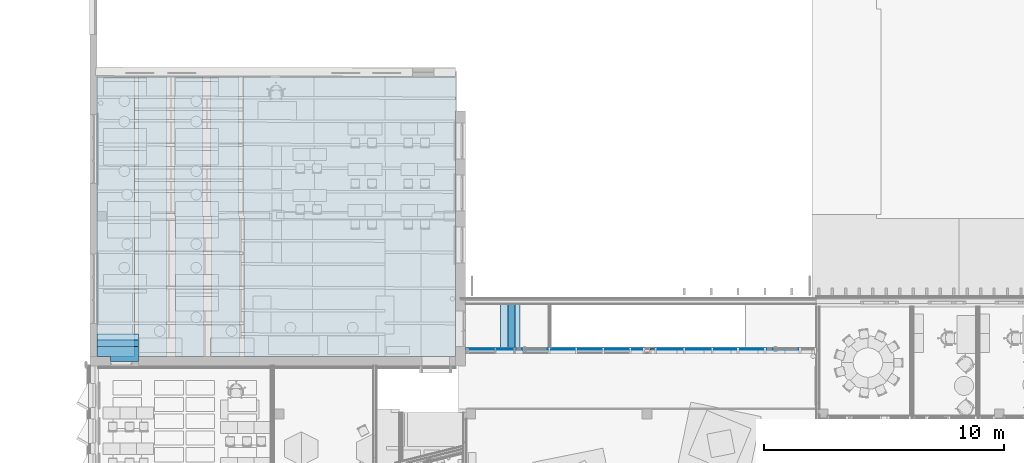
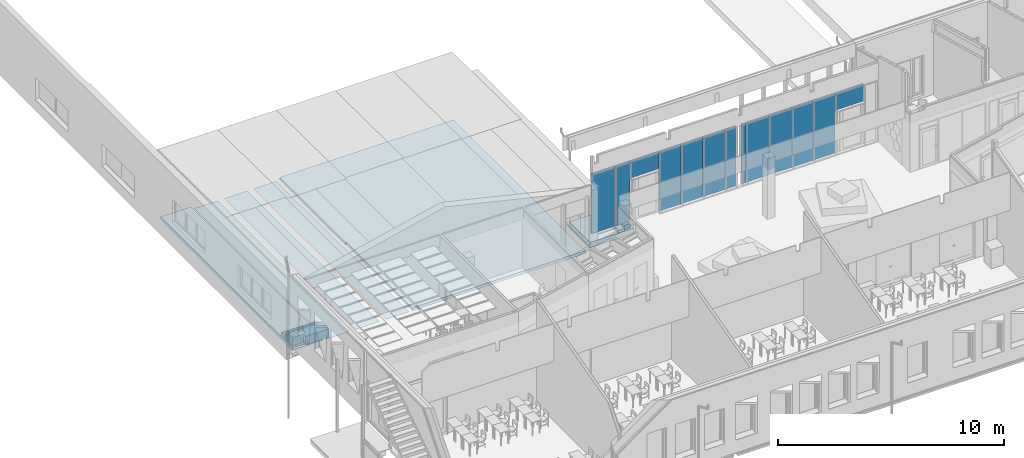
# One storey, part 38 of 153: 13 plates, 7 slabs, 2 elements without a shape of their own.
"""IFC2X3 building model written with IfcOpenShell, lengths in millimetres."""

from ifc_helpers import new_model, entity, si_unit, converted_unit, derived_unit, money_unit, direction, frame, origin_with_axes, place, context, subcontext, project, spatial, faceted_brep, material, type_object, element, aggregate, save


model = new_model("IFC2X3")

# Units and contexts
model_context = context("Model", 3, precision=0.01, world=origin_with_axes(), true_north=direction((0.0, 1.0)))
body_context = subcontext(model_context, "Body", "Model", "MODEL_VIEW")
ifc_project = project(units=[si_unit("LENGTHUNIT", "METRE", prefix="MILLI"), si_unit("AREAUNIT", "SQUARE_METRE"), si_unit("VOLUMEUNIT", "CUBIC_METRE"), converted_unit("PLANEANGLEUNIT", "DEGREE", entity("IfcPlaneAngleMeasure", 0.0174532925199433), si_unit("PLANEANGLEUNIT", "RADIAN"), dimensions=[0, 0, 0, 0, 0, 0, 0]), money_unit("EUR"), converted_unit("TIMEUNIT", "Year", entity("IfcTimeMeasure", 31557600.0), si_unit("TIMEUNIT", "SECOND"), dimensions=[0, 0, 1, 0, 0, 0, 0]), si_unit("MASSUNIT", "GRAM", prefix="KILO"), si_unit("THERMODYNAMICTEMPERATUREUNIT", "DEGREE_CELSIUS"), si_unit("LUMINOUSINTENSITYUNIT", "LUMEN"), si_unit("ENERGYUNIT", "JOULE", prefix="MEGA"), derived_unit("THERMALCONDUCTANCEUNIT", [(si_unit("POWERUNIT", "WATT"), 1), (si_unit("LENGTHUNIT", "METRE"), -1), (si_unit("THERMODYNAMICTEMPERATUREUNIT", "KELVIN"), -1)]), derived_unit("SPECIFICHEATCAPACITYUNIT", [(si_unit("ENERGYUNIT", "JOULE"), 1), (si_unit("MASSUNIT", "GRAM", prefix="KILO"), -1), (si_unit("THERMODYNAMICTEMPERATUREUNIT", "KELVIN"), -1)]), derived_unit("MASSDENSITYUNIT", [(si_unit("MASSUNIT", "GRAM", prefix="KILO"), 1), (si_unit("VOLUMEUNIT", "CUBIC_METRE"), -1)])], contexts=[model_context])

# Site, building, storey
site_placement = place(None, frame((0.0, 0.0, 8650.0), z_axis=(0.0, 0.0, 1.0), x_axis=(1.0, 0.0, 0.0)))
site = spatial("IfcSite", under=ifc_project, at=site_placement, Name="43301:001:0844", CompositionType="ELEMENT")
building_placement = place(site_placement, origin_with_axes())
building = spatial("IfcBuilding", under=site, at=building_placement, Name="Kuressaare Ametikooli tuulikute mehaanikute õppekorpus", CompositionType="ELEMENT")
storey_placement = place(building_placement, frame((0.0, 0.0, 4100.0), z_axis=(0.0, 0.0, 1.0), x_axis=(1.0, 0.0, 0.0)))
storey = spatial("IfcBuildingStorey", under=building, at=storey_placement, Name="2.korrus", CompositionType="ELEMENT", Elevation=4100.0)

# Slabs
ifc_material_1 = material(Name="GENEERILINE - KONSTRUKTRIOON")
slab_type_1 = type_object("IfcSlabType", Name="GENEERILINE - KONSTRUKTRIOON 150", PredefinedType="NOTDEFINED")
slab_1_placement = place(storey_placement, frame((105407.1026760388, 28359.57374875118, -299.9999999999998), z_axis=(0.0, 0.0, 1.0), x_axis=(1.0, 0.0, 0.0)))
element("IfcSlab", 1, at=slab_1_placement, inside=storey, type_object=slab_type_1, material=ifc_material_1, PredefinedType="NOTDEFINED", context=body_context, shape_type="Brep", body=[
    faceted_brep([(0.0, 0.0, 0.0), (0.0, 0.0, -149.9999999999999), (-300.5981458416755, 0.0, -149.9999999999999), (-300.5981458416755, 0.0, 0.0), (0.0, -1850.000000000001, 0.0), (0.0, -1850.000000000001, -149.9999999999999), (-300.5981458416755, -1850.000000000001, -149.9999999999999), (-300.5981458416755, -1850.000000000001, 0.0)], [[[0, 1, 2, 3]], [[4, 5, 1, 0]], [[2, 1, 5, 6]], [[3, 2, 6, 7]], [[4, 0, 3, 7]], [[7, 6, 5, 4]]]),
])
slab_2_placement = place(storey_placement, frame((88258.75644683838, 26853.06892395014, -299.9999999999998), z_axis=(0.0, 0.0, 1.0), x_axis=(1.0, 0.0, 0.0)))
element("IfcSlab", 2, at=slab_2_placement, inside=storey, type_object=slab_type_1, material=ifc_material_1, PredefinedType="NOTDEFINED", context=body_context, shape_type="Brep", body=[
    faceted_brep([(0.0, 0.0, 0.0), (0.0, 0.0, -150.0000000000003), (1733.070487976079, 0.0, -150.0000000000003), (1733.070487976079, 0.0, 0.0), (0.0, 269.9999999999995, 0.0), (0.0, 269.9999999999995, -150.0000000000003), (1733.070487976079, 269.9999999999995, -150.0000000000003), (1733.070487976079, 269.9999999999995, 0.0)], [[[0, 1, 2, 3]], [[4, 5, 1, 0]], [[2, 1, 5, 6]], [[3, 2, 6, 7]], [[4, 0, 3, 7]], [[7, 6, 5, 4]]]),
])
slab_3_placement = place(storey_placement, frame((88258.75644683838, 37845.7716648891, -539.9999999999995), z_axis=(0.0, 0.0, 1.0), x_axis=(1.0, 0.0, 0.0)))
element("IfcSlab", 3, at=slab_3_placement, inside=storey, type_object=slab_type_1, material=ifc_material_1, PredefinedType="NOTDEFINED", context=body_context, shape_type="Brep", body=[
    faceted_brep([(0.0, 0.0, 0.0), (0.0, -11662.70274093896, 0.0), (1558.995971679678, -11662.70274093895, 0.0), (1558.995971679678, 0.0, 0.0), (0.0, -11662.70274093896, -149.9999999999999), (0.0, 0.0, -149.9999999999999), (1558.995971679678, -11662.70274093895, -149.9999999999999), (1558.995971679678, 0.0, -149.9999999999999)], [[[0, 1, 2, 3]], [[4, 1, 0, 5]], [[1, 4, 6, 2]], [[6, 7, 3, 2]], [[5, 0, 3, 7]], [[5, 7, 6, 4]]]),
    faceted_brep([(5966.802896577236, -5811.435005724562, -149.9999999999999), (5923.606271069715, -5811.435005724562, -149.9999999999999), (5922.786153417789, -5811.435005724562, -149.8234995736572), (5965.978554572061, -5811.435005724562, -149.8234995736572), (4772.792239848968, -11662.70274093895, -149.9999999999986), (4772.792239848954, -5811.435005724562, -149.9999999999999), (4745.694888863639, -5811.435005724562, -149.9999999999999), (4745.694888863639, 0.0, -149.999999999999), (5923.606271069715, 0.0, -150.0000000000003), (5966.802896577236, -11662.70274093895, -150.0000000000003), (5922.786153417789, 0.0, -149.8234995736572), (4747.7992075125, -5811.435005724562, -149.8234995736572), (4773.843710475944, -5811.435005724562, -149.8234995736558), (4775.349164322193, -5811.435005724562, -149.8234995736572), (4775.349164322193, -11662.70274093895, -149.8234995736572), (5965.978554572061, -11662.70274093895, -149.8234995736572), (4747.7992075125, 0.0, -149.8234995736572), (4773.903686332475, -11662.70274093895, -149.8134319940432), (4773.903686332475, -5811.435005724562, -149.8134319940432), (4746.740962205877, -5811.435005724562, -149.8134319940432), (4746.740962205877, 0.0, -149.8134319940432)], [[[0, 1, 2, 3]], [[4, 5, 6, 7, 8, 1, 0, 9]], [[2, 1, 8, 10]], [[11, 12, 13, 14, 15, 3, 2, 10, 16]], [[9, 0, 3, 15]], [[4, 17, 18, 12, 5]], [[6, 5, 12, 11, 19]], [[20, 7, 6, 19]], [[20, 16, 10, 8, 7]], [[15, 14, 17, 4, 9]], [[13, 12, 18]], [[17, 14, 13, 18]], [[16, 20, 19, 11]]]),
    faceted_brep([(14968.75576019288, -11662.70274093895, -149.9999999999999), (6133.995971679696, -11662.70274093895, -149.9999999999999), (6133.995971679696, -5811.435005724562, -149.9999999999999), (6088.995971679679, -5811.435005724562, -149.9999999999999), (6088.995971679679, 0.0, -149.9999999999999), (14968.75576019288, 0.0, -149.9999999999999), (7057.827577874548, -5590.926049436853, -149.9999999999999), (7057.827577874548, -6090.926049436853, -149.9999999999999), (8087.827577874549, -6090.926049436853, -149.9999999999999), (8087.827577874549, -5590.926049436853, -149.9999999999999), (14968.75576019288, -11662.70274093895, 0.0), (6133.995971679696, -11662.70274093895, 0.0), (6133.995971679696, -5811.435005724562, 0.0), (6088.995971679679, -5811.435005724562, 0.0), (6088.995971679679, 0.0, 0.0), (14968.75576019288, 0.0, 0.0), (7057.827577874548, -6090.926049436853, -60.00000000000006), (7057.827577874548, -5590.926049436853, -60.00000000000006), (8087.827577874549, -6090.926049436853, -60.00000000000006), (8087.827577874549, -5590.926049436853, -60.00000000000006)], [[[0, 1, 2, 3, 4, 5], [6, 7, 8, 9]], [[0, 10, 11, 1]], [[2, 1, 11, 12]], [[3, 2, 12, 13]], [[4, 3, 13, 14]], [[15, 5, 4, 14]], [[5, 15, 10, 0]], [[16, 7, 6, 17]], [[18, 8, 7, 16]], [[19, 9, 8, 18]], [[17, 6, 9, 19]], [[14, 13, 12, 11, 10, 15]], [[19, 18, 16, 17]]]),
    faceted_brep([(4441.802896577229, -5811.435005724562, -149.9999999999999), (4419.067604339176, -5811.435005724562, -149.9999999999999), (4418.249115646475, -5811.435005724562, -149.8234995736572), (4440.978554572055, -5811.435005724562, -149.8234995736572), (3247.792239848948, -11662.70274093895, -149.9999999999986), (3247.792239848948, -5811.435005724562, -149.9999999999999), (3246.087099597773, -5811.435005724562, -149.9999999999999), (3246.087099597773, 0.0, -149.9999999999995), (4419.067604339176, 0.0, -149.9999999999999), (4441.802896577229, -11662.70274093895, -150.0000000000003), (4418.249115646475, 0.0, -149.8234995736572), (3247.175886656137, -5811.435005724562, -149.8234995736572), (3248.843710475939, -5811.435005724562, -149.8234995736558), (3250.349164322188, -5811.435005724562, -149.8234995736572), (3250.349164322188, -11662.70274093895, -149.8234995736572), (4440.978554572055, -11662.70274093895, -149.8234995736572), (3247.175886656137, 0.0, -149.8234995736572), (3248.903686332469, -11662.70274093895, -149.8134319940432), (3248.903686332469, -5811.435005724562, -149.8134319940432)], [[[0, 1, 2, 3]], [[4, 5, 6, 7, 8, 1, 0, 9]], [[2, 1, 8, 10]], [[11, 12, 13, 14, 15, 3, 2, 10, 16]], [[9, 0, 3, 15]], [[4, 17, 18, 12, 5]], [[6, 5, 12, 11]], [[16, 7, 6, 11]], [[7, 16, 10, 8]], [[15, 14, 17, 4, 9]], [[13, 12, 18]], [[17, 14, 13, 18]]]),
    faceted_brep([(2916.802896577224, -11662.70274093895, -150.0000000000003), (2916.802896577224, 0.0, -150.0000000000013), (2915.97855457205, 0.0, -149.8234995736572), (2915.97855457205, -11662.70274093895, -149.8234995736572), (1722.792239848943, -11662.70274093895, -149.9999999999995), (1722.792239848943, 0.0, -149.999999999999), (1723.903686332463, 0.0, -149.8134319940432), (1725.349164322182, 0.0, -149.8234995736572), (1725.349164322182, -11662.70274093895, -149.8234995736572), (1723.903686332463, -11662.70274093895, -149.8134319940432)], [[[0, 1, 2, 3]], [[4, 5, 1, 0]], [[6, 7, 2, 1, 5]], [[2, 7, 8, 3]], [[3, 8, 9, 4, 0]], [[6, 5, 4, 9]], [[7, 6, 9, 8]]]),
])

# Curtain wall, plates
curtain_wall_type = type_object("IfcCurtainWallType", Name="Curtain Wall Type", PredefinedType="NOTDEFINED")
curtain_wall_1_placement = place(storey_placement, frame((107592.1026822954, 26479.57374875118, 34.9999663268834), z_axis=(0.0, 0.0, 1.0), x_axis=(1.0, 0.0, 0.0)))
curtain_wall_1 = element("IfcCurtainWall", 4, at=curtain_wall_1_placement, inside=storey, type_object=curtain_wall_type, Name="SKF-2.1,EI60")
ifc_material_2 = material(Name="Klaas")
plate_type_1 = type_object("IfcPlateType", Name="Main Panel 1115 x 950 x 40", PredefinedType="NOTDEFINED")
plate_1_placement = place(curtain_wall_1_placement, frame((0.0, 0.0, 1761.999995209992), z_axis=(0.0, 0.0, 1.0), x_axis=(-1.0, 0.0, 0.0)))
plate_1 = element("IfcPlate", 5, at=plate_1_placement, type_object=plate_type_1, material=ifc_material_2, context=body_context, shape_type="Brep", body=[
    faceted_brep([(-669.9999926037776, 20.00000000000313, 1487.999969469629), (-669.9999926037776, -19.99999999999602, 1487.999969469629), (444.9999861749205, -19.99999999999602, 1487.999969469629), (444.9999861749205, 20.00000000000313, 1487.999969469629), (-669.9999926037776, 20.00000000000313, -1756.999981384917), (-669.9999926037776, -19.99999999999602, -1756.999981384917), (444.9999861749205, -19.99999999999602, -1756.999981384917), (444.9999861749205, -19.99999999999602, 538.000010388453), (444.9999861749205, 20.00000000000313, 538.000010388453), (444.9999861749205, 20.00000000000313, -1756.999981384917)], [[[0, 1, 2, 3]], [[4, 5, 1, 0]], [[1, 5, 6, 7, 2]], [[3, 2, 7, 8]], [[0, 3, 8, 9, 4]], [[9, 6, 5, 4]], [[8, 7, 6, 9]]]),
])
plate_type_2 = type_object("IfcPlateType", Name="Main Panel 1 x 3250 x 40", PredefinedType="NOTDEFINED")
plate_2_placement = place(curtain_wall_1_placement, frame((-2308.778167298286, 0.0, 1797.500013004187), z_axis=(0.0, 0.0, 1.0), x_axis=(-1.0, 0.0, 0.0)))
plate_2 = element("IfcPlate", 6, at=plate_2_placement, type_object=plate_type_2, material=ifc_material_2, Name="AKU10+4,EI30", context=body_context, shape_type="Brep", body=[
    faceted_brep([(-384.5620688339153, 20.00000000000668, 1457.500021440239), (-384.5620688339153, -19.99999999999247, 1457.500021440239), (391.2217889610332, -19.99999999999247, 1457.500021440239), (391.2217889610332, 20.00000000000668, 1457.500021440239), (-384.5620688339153, 20.00000000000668, 497.5000354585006), (-384.5620688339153, -19.99999999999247, 497.5000354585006), (-393.7781580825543, -19.99999999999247, 497.4999868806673), (-393.7781580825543, -19.99999999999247, -1792.499993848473), (391.2218375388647, -19.99999999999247, -1792.499993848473), (392.1183900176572, -19.99999999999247, -1792.499993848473), (392.1183900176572, -19.99999999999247, 1457.500021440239), (392.1183900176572, 20.00000000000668, 1457.500021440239), (392.1183900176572, 20.00000000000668, -1792.499993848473), (391.2218375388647, 20.00000000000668, -1792.499993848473), (-393.7781580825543, 20.00000000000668, -1792.499993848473), (-393.7781580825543, 20.00000000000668, 497.4999868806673)], [[[0, 1, 2, 3]], [[4, 5, 1, 0]], [[1, 5, 6, 7, 8, 9, 10, 2]], [[3, 2, 10, 11]], [[0, 3, 11, 12, 13, 14, 15, 4]], [[15, 6, 5, 4]], [[14, 7, 6, 15]], [[13, 8, 7, 14]], [[12, 9, 8, 13]], [[11, 10, 9, 12]]]),
])
plate_type_3 = type_object("IfcPlateType", Name="Main Panel 70 x 3250 x 40", PredefinedType="NOTDEFINED")
plate_3_placement = place(curtain_wall_1_placement, frame((-3476.965550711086, 0.0, 1630.000002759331), z_axis=(0.0, 0.0, 1.0), x_axis=(-1.0, 0.0, 0.0)))
plate_3 = element("IfcPlate", 7, at=plate_3_placement, type_object=plate_type_3, material=ifc_material_2, Name="AKU10+4,EI30", context=body_context, shape_type="Brep", body=[
    faceted_brep([(-766.0689610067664, 20.00000000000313, 1624.999965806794), (-766.0689610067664, -19.99999999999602, 1624.999965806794), (348.034445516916, -19.99999999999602, 1625.000062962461), (348.034445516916, 20.00000000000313, 1625.000062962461), (-766.0689610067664, 20.00000000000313, -1624.99998355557), (-766.0689610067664, -19.99999999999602, -1624.999983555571), (348.034445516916, -19.99999999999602, -1624.999983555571), (418.0344714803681, -19.99999999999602, -1624.999983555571), (418.0345686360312, -19.99999999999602, 1624.999965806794), (418.0345686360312, 20.00000000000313, 1624.999965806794), (418.0344714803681, 20.00000000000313, -1624.99998355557), (348.034445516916, 20.00000000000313, -1624.99998355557)], [[[0, 1, 2, 3]], [[4, 5, 1, 0]], [[1, 5, 6, 7, 8, 2]], [[3, 2, 8, 9]], [[0, 3, 9, 10, 11, 4]], [[11, 6, 5, 4]], [[10, 7, 6, 11]], [[9, 8, 7, 10]]]),
])
plate_type_4 = type_object("IfcPlateType", Name="Main Panel 339 x 950 x 40", PredefinedType="NOTDEFINED")
plate_4_placement = place(curtain_wall_1_placement, frame((-1191.492466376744, 0.0, 2726.111134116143), z_axis=(0.0, 0.0, 1.0), x_axis=(-1.0, 0.0, 0.0)))
plate_4 = element("IfcPlate", 8, at=plate_4_placement, type_object=plate_type_4, material=ifc_material_2, Name="AKU10+4,EI30", context=body_context, shape_type="Brep", body=[
    faceted_brep([(-736.4924667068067, 20.00000000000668, 528.8888519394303), (-736.4924667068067, -19.99999999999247, 528.8888519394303), (383.5075250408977, -19.99999999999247, 528.8889176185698), (383.5075250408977, 20.00000000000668, 528.8889176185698), (-736.4924667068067, 20.00000000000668, -426.1111069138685), (-736.4924667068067, -19.99999999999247, -426.1111069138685), (-716.4924461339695, -19.99999999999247, -426.1111069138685), (-716.4924461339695, -19.99999999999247, -421.1111072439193), (383.5075250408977, -19.99999999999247, -421.1111291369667), (718.5075467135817, -19.99999999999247, -421.1111291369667), (722.7236220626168, -19.99999999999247, -421.1111072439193), (722.7236220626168, -19.99999999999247, 528.8889176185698), (722.7236220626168, 20.00000000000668, 528.8889176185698), (722.7236220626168, 20.00000000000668, -421.1111072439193), (718.5075467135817, 20.00000000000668, -421.1111291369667), (383.5075250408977, 20.00000000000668, -421.1111291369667), (-716.4924461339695, 20.00000000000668, -421.1111072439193), (-716.4924461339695, 20.00000000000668, -426.1111069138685)], [[[0, 1, 2, 3]], [[4, 5, 1, 0]], [[1, 5, 6, 7, 8, 9, 10, 11, 2]], [[3, 2, 11, 12]], [[0, 3, 12, 13, 14, 15, 16, 17, 4]], [[17, 6, 5, 4]], [[16, 7, 6, 17]], [[15, 8, 7, 16]], [[14, 9, 8, 15]], [[13, 10, 9, 14]], [[12, 11, 10, 13]]]),
])
plate_type_5 = type_object("IfcPlateType", Name="Main Panel 1115 x 3250 x 40", PredefinedType="NOTDEFINED")
plate_5_placement = place(curtain_wall_1_placement, frame((1125.0, 0.0, 1955.000017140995), z_axis=(0.0, 0.0, 1.0), x_axis=(-1.0, 0.0, 0.0)))
plate_5 = element("IfcPlate", 9, at=plate_5_placement, type_object=plate_type_5, material=ifc_material_2, context=body_context, shape_type="Brep", body=[
    faceted_brep([(-670.000016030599, 20.00000000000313, 1300.000017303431), (-670.000016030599, -19.99999999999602, 1300.000017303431), (444.9999808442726, -19.99999999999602, 1299.999968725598), (444.9999808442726, 20.00000000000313, 1299.999968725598), (-670.000016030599, 20.00000000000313, -1949.999997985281), (-670.000016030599, -19.99999999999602, -1949.999997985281), (444.9999808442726, -19.99999999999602, -1949.999997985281), (444.9999808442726, 20.00000000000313, -1949.999997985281)], [[[0, 1, 2, 3]], [[4, 5, 1, 0]], [[1, 5, 6, 2]], [[3, 2, 6, 7]], [[0, 3, 7, 4]], [[7, 6, 5, 4]]]),
])
plate_6_placement = place(curtain_wall_1_placement, frame((2362.500000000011, 0.0, 1630.000026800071), z_axis=(0.0, 0.0, 1.0), x_axis=(-1.0, 0.0, 0.0)))
plate_6 = element("IfcPlate", 10, at=plate_6_placement, type_object=plate_type_5, material=ifc_material_2, context=body_context, shape_type="Brep", body=[
    faceted_brep([(-557.5000160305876, 19.99999999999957, 1625.000007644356), (-557.5000160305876, -19.99999999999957, 1625.000007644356), (557.499980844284, -19.99999999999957, 1625.000007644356), (557.499980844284, 19.99999999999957, 1625.000007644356), (-557.5000160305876, 19.99999999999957, -1625.000007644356), (-557.5000160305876, -19.99999999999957, -1625.000007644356), (557.499980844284, -19.99999999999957, -1625.000007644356), (557.499980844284, 19.99999999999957, -1625.000007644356)], [[[0, 1, 2, 3]], [[4, 5, 1, 0]], [[1, 5, 6, 2]], [[3, 2, 6, 7]], [[0, 3, 7, 4]], [[7, 6, 5, 4]]]),
])
plate_type_6 = type_object("IfcPlateType", Name="Main Panel 556 x 3250 x 40", PredefinedType="NOTDEFINED")
plate_7_placement = place(curtain_wall_1_placement, frame((3207.923358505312, 0.0, 1630.000036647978), z_axis=(0.0, 0.0, 1.0), x_axis=(-1.0, 0.0, 0.0)))
plate_7 = element("IfcPlate", 11, at=plate_7_placement, type_object=plate_type_6, material=ifc_material_2, context=body_context, shape_type="Brep", body=[
    faceted_brep([(-277.9233679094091, 19.99999999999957, 1625.000037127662), (-277.9233679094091, -19.99999999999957, 1625.000037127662), (277.923339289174, -19.99999999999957, 1625.000037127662), (277.923339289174, 19.99999999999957, 1625.000037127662), (-277.9233193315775, 19.99999999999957, -1625.000017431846), (-277.9233193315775, -19.99999999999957, -1625.000017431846), (277.923339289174, -19.99999999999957, -1625.000017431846), (277.923339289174, 19.99999999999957, -1625.000017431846)], [[[0, 1, 2, 3]], [[4, 5, 1, 0]], [[1, 5, 6, 2]], [[3, 2, 6, 7]], [[0, 3, 7, 4]], [[7, 6, 5, 4]]]),
])
aggregate(curtain_wall_1, [plate_1, plate_2, plate_3, plate_4, plate_5, plate_6, plate_7])

# Slabs
slab_type_2 = type_object("IfcSlabType", Name="GENEERILINE - KONSTRUKTRIOON 300", PredefinedType="NOTDEFINED")
slab_4_placement = place(storey_placement, frame((105707.1026760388, 28359.57374875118, -149.9999999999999), z_axis=(0.0, 0.0, 1.0), x_axis=(1.0, 0.0, 0.0)))
element("IfcSlab", 12, at=slab_4_placement, inside=storey, type_object=slab_type_2, material=ifc_material_1, PredefinedType="NOTDEFINED", context=body_context, shape_type="Brep", body=[
    faceted_brep([(0.0, 0.0, 0.0), (0.0, 0.0, -299.9999999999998), (-299.9999999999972, 0.0, -299.9999999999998), (-299.9999999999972, 0.0, 0.0), (0.0, -1850.000000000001, 0.0), (0.0, -1850.000000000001, -299.9999999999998), (-299.9999999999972, -1850.000000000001, -299.9999999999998), (-299.9999999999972, -1850.000000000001, 0.0)], [[[0, 1, 2, 3]], [[4, 5, 1, 0]], [[2, 1, 5, 6]], [[3, 2, 6, 7]], [[4, 0, 3, 7]], [[7, 6, 5, 4]]]),
])
slab_5_placement = place(storey_placement, frame((88258.75644683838, 26583.06892395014, -149.9999999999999), z_axis=(0.0, 0.0, 1.0), x_axis=(1.0, 0.0, 0.0)))
element("IfcSlab", 13, at=slab_5_placement, inside=storey, type_object=slab_type_2, material=ifc_material_1, PredefinedType="NOTDEFINED", context=body_context, shape_type="Brep", body=[
    faceted_brep([(0.0, 0.0, 0.0), (0.0, 0.0, -300.0000000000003), (1733.070487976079, 0.0, -300.0000000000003), (1733.070487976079, 0.0, 0.0), (0.0, 269.9999999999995, 0.0), (0.0, 269.9999999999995, -300.0000000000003), (1733.070487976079, 269.9999999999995, -300.0000000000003), (1733.070487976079, 269.9999999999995, 0.0)], [[[0, 1, 2, 3]], [[4, 5, 1, 0]], [[2, 1, 5, 6]], [[3, 2, 6, 7]], [[4, 0, 3, 7]], [[7, 6, 5, 4]]]),
])
slab_type_3 = type_object("IfcSlabType", Name="GENEERILINE - KONSTRUKTRIOON 290", PredefinedType="NOTDEFINED")
slab_6_placement = place(storey_placement, frame((105907.1035244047, 28359.57374875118, -450.0000000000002), z_axis=(0.0, 0.0, 1.0), x_axis=(1.0, 0.0, 0.0)))
element("IfcSlab", 14, at=slab_6_placement, inside=storey, type_object=slab_type_3, material=ifc_material_1, PredefinedType="NOTDEFINED", context=body_context, shape_type="Brep", body=[
    faceted_brep([(0.0, 0.0, 0.0), (0.0, 0.0, -289.9986266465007), (-2259.591317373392, 0.0, -289.9986266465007), (-2259.591317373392, 0.0, 0.0), (0.0, -1850.000000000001, 0.0), (0.0, -1850.000000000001, -289.9986266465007), (-2259.591317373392, -1850.000000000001, -289.9986266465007), (-2259.591317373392, -1850.000000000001, 0.0)], [[[0, 1, 2, 3]], [[4, 5, 1, 0]], [[2, 1, 5, 6]], [[3, 2, 6, 7]], [[4, 0, 3, 7]], [[7, 6, 5, 4]]]),
])

# Curtain wall, plates
curtain_wall_2_placement = place(storey_placement, frame((116907.3849272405, 26479.57374875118, 34.9999663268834), z_axis=(0.0, 0.0, 1.0), x_axis=(1.0, 0.0, 0.0)))
curtain_wall_2 = element("IfcCurtainWall", 15, at=curtain_wall_2_placement, inside=storey, type_object=curtain_wall_type, Name="SKF-2.2,EI60")
plate_type_7 = type_object("IfcPlateType", Name="Main Panel 831 x 950 x 40", PredefinedType="NOTDEFINED")
plate_8_placement = place(curtain_wall_2_placement, frame((0.0, 0.0, 2780.000007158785), z_axis=(0.0, 0.0, 1.0), x_axis=(-1.0, 0.0, 0.0)))
plate_8 = element("IfcPlate", 16, at=plate_8_placement, type_object=plate_type_7, material=ifc_material_2, context=body_context, shape_type="Brep", body=[
    faceted_brep([(-689.7177765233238, 20.00000000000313, 474.9999803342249), (-689.7177765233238, -19.99999999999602, 474.9999803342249), (-70.56444715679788, -19.99999999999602, 474.9999803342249), (-70.56444715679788, 20.00000000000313, 474.9999803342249), (-689.7177765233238, 20.00000000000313, -474.9999684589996), (-689.7177765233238, -19.99999999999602, -474.9999684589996), (-70.56444715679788, -19.99999999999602, -474.9999684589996), (760.2822277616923, -19.99999999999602, -474.9999684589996), (760.2822277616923, -19.99999999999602, 474.9999803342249), (760.2822277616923, 20.00000000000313, 474.9999803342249), (760.2822277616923, 20.00000000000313, -474.9999684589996), (-70.56444715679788, 20.00000000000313, -474.9999684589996)], [[[0, 1, 2, 3]], [[4, 5, 1, 0]], [[1, 5, 6, 7, 8, 2]], [[3, 2, 8, 9]], [[0, 3, 9, 10, 11, 4]], [[11, 6, 5, 4]], [[10, 7, 6, 11]], [[9, 8, 7, 10]]]),
])
plate_type_8 = type_object("IfcPlateType", Name="Main Panel 224 x 3250 x 40", PredefinedType="NOTDEFINED")
plate_9_placement = place(curtain_wall_2_placement, frame((-5437.390290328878, 0.0, 1629.999991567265), z_axis=(0.0, 0.0, 1.0), x_axis=(-1.0, 0.0, 0.0)))
plate_9 = element("IfcPlate", 17, at=plate_9_placement, type_object=plate_type_8, material=ifc_material_2, context=body_context, shape_type="Brep", body=[
    faceted_brep([(-112.0452653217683, 19.99999999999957, 1624.999972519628), (-112.0452653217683, -19.99999999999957, 1624.999972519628), (112.0452432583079, -19.99999999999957, 1624.999972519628), (112.0452432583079, 19.99999999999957, 1624.999972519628), (-112.0452653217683, 19.99999999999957, -1624.999972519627), (-112.0452653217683, -19.99999999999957, -1624.999972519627), (112.0452432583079, -19.99999999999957, -1624.999972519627), (112.0452432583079, 19.99999999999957, -1624.999972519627)], [[[0, 1, 2, 3]], [[4, 5, 1, 0]], [[1, 5, 6, 2]], [[3, 2, 6, 7]], [[0, 3, 7, 4]], [[7, 6, 5, 4]]]),
])
plate_type_9 = type_object("IfcPlateType", Name="Main Panel 776 x 3250 x 40", PredefinedType="NOTDEFINED")
plate_10_placement = place(curtain_wall_2_placement, frame((-2343.312403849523, 0.0, 1629.999991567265), z_axis=(0.0, 0.0, 1.0), x_axis=(-1.0, 0.0, 0.0)))
plate_10 = element("IfcPlate", 18, at=plate_10_placement, type_object=plate_type_9, material=ifc_material_2, context=body_context, shape_type="Brep", body=[
    faceted_brep([(-448.0301770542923, 20.00000000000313, 1624.999972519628), (-448.0301770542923, -19.99999999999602, 1624.999972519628), (-163.8768716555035, -19.99999999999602, 1624.999972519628), (-163.8768716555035, 20.00000000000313, 1624.999972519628), (-448.0301770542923, 20.00000000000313, -1624.999972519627), (-448.0301770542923, -19.99999999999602, -1624.999972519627), (-163.8768716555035, -19.99999999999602, -1624.999972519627), (611.9070179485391, -19.99999999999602, -1624.999972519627), (611.9070179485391, -19.99999999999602, 1624.999972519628), (611.9070179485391, 20.00000000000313, 1624.999972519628), (611.9070179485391, 20.00000000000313, -1624.999972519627), (-163.8768716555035, 20.00000000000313, -1624.999972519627)], [[[0, 1, 2, 3]], [[4, 5, 1, 0]], [[1, 5, 6, 7, 8, 2]], [[3, 2, 8, 9]], [[0, 3, 9, 10, 11, 4]], [[11, 6, 5, 4]], [[10, 7, 6, 11]], [[9, 8, 7, 10]]]),
])
plate_type_10 = type_object("IfcPlateType", Name="Main Panel 831 x 3250 x 40", PredefinedType="NOTDEFINED")
plate_11_placement = place(curtain_wall_2_placement, frame((-1169.326037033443, 0.0, 1725.714282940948), z_axis=(0.0, 0.0, 1.0), x_axis=(-1.0, 0.0, 0.0)))
plate_11 = element("IfcPlate", 19, at=plate_11_placement, type_object=plate_type_10, material=ifc_material_2, context=body_context, shape_type="Brep", body=[
    faceted_brep([(-399.0437930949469, 20.00000000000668, 1529.285681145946), (-399.0437930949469, -19.99999999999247, 1529.285681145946), (-114.8904876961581, -19.99999999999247, 1529.285681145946), (-114.8904876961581, 20.00000000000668, 1529.285681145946), (-399.0437930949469, 20.00000000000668, 574.2857349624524), (-399.0437930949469, -19.99999999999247, 574.2857349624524), (-399.0437930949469, -19.99999999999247, -1720.71426389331), (-114.8904876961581, -19.99999999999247, -1720.71426389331), (715.9561796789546, -19.99999999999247, -1720.71426389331), (715.9561796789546, -19.99999999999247, 1529.285681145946), (715.9561796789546, 20.00000000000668, 1529.285681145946), (715.9561796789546, 20.00000000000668, -1720.71426389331), (-114.8904876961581, 20.00000000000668, -1720.71426389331), (-399.0437930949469, 20.00000000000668, -1720.71426389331)], [[[0, 1, 2, 3]], [[4, 5, 1, 0]], [[1, 5, 6, 7, 8, 9, 2]], [[3, 2, 9, 10]], [[0, 3, 10, 11, 12, 13, 4]], [[13, 6, 5, 4]], [[12, 7, 6, 13]], [[11, 8, 7, 12]], [[10, 9, 8, 11]]]),
])
plate_12_placement = place(curtain_wall_2_placement, frame((-3399.299119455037, 0.0, 1397.1428499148), z_axis=(0.0, 0.0, 1.0), x_axis=(-1.0, 0.0, 0.0)))
plate_12 = element("IfcPlate", 20, at=plate_12_placement, type_object=plate_type_10, material=ifc_material_2, context=body_context, shape_type="Brep", body=[
    faceted_brep([(-434.0797009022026, 20.00000000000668, 1857.857114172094), (-434.0797009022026, -19.99999999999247, 1857.857114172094), (-94.8635691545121, -19.99999999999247, 1857.857114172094), (-94.8635691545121, 20.00000000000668, 1857.857114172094), (-434.0797009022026, 20.00000000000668, -1397.142849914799), (-434.0797009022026, -19.99999999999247, -1397.142849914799), (-414.07972186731, -19.99999999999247, -1397.142849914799), (-414.07972186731, -19.99999999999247, -1392.142830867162), (-94.8635691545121, -19.99999999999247, -1392.142830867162), (735.9830982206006, -19.99999999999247, -1392.142830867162), (735.9830982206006, -19.99999999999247, 1857.857114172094), (735.9830982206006, 20.00000000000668, 1857.857114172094), (735.9830982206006, 20.00000000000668, -1392.142830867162), (-94.8635691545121, 20.00000000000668, -1392.142830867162), (-414.07972186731, 20.00000000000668, -1392.142830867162), (-414.07972186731, 20.00000000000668, -1397.142849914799)], [[[0, 1, 2, 3]], [[4, 5, 1, 0]], [[1, 5, 6, 7, 8, 9, 10, 2]], [[3, 2, 10, 11]], [[0, 3, 11, 12, 13, 14, 15, 4]], [[15, 6, 5, 4]], [[14, 7, 6, 15]], [[13, 8, 7, 14]], [[12, 9, 8, 13]], [[11, 10, 9, 12]]]),
])
plate_type_11 = type_object("IfcPlateType", Name="Main Panel 886 x 3250 x 40", PredefinedType="NOTDEFINED")
plate_13_placement = place(curtain_wall_2_placement, frame((-4630.020936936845, 0.0, 1629.999991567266), z_axis=(0.0, 0.0, 1.0), x_axis=(-1.0, 0.0, 0.0)))
plate_13 = element("IfcPlate", 21, at=plate_13_placement, type_object=plate_type_11, material=ifc_material_2, context=body_context, shape_type="Brep", body=[
    faceted_brep([(-484.7387270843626, 20.00000000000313, 1624.999972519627), (-484.7387270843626, -19.99999999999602, 1624.999972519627), (-200.5853731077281, -19.99999999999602, 1624.999972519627), (-200.5853731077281, 20.00000000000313, 1624.999972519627), (-484.7386785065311, 20.00000000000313, -1624.999972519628), (-484.7386785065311, -19.99999999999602, -1624.999972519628), (-200.5853731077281, -19.99999999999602, -1624.999972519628), (685.3240720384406, -19.99999999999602, -1624.999972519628), (685.3240720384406, -19.99999999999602, 1624.999972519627), (685.3240720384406, 20.00000000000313, 1624.999972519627), (685.3240720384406, 20.00000000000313, -1624.999972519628), (-200.5853731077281, 20.00000000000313, -1624.999972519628)], [[[0, 1, 2, 3]], [[4, 5, 1, 0]], [[1, 5, 6, 7, 8, 2]], [[3, 2, 8, 9]], [[0, 3, 9, 10, 11, 4]], [[11, 6, 5, 4]], [[10, 7, 6, 11]], [[9, 8, 7, 10]]]),
])
aggregate(curtain_wall_2, [plate_8, plate_9, plate_10, plate_11, plate_12, plate_13])

# Slab
slab_type_4 = type_object("IfcSlabType", Name="GENEERILINE - KONSTRUKTRIOON 450", PredefinedType="NOTDEFINED")
slab_7_placement = place(storey_placement, frame((88258.75644683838, 26183.06892395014, 0.0), z_axis=(0.0, 0.0, 1.0), x_axis=(1.0, 0.0, 0.0)))
element("IfcSlab", 22, at=slab_7_placement, inside=storey, type_object=slab_type_4, material=ifc_material_1, PredefinedType="NOTDEFINED", context=body_context, shape_type="Brep", body=[
    faceted_brep([(0.0, 0.0, 0.0), (0.0, 0.0, -450.0000000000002), (558.0704879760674, 0.0, -450.0000000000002), (558.0704879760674, 0.0, 0.0), (0.0, 399.9999999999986, 0.0), (0.0, 399.9999999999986, -450.0000000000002), (1733.070487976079, 399.9999999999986, -450.0000000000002), (1733.070487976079, -209.9999999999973, -450.0000000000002), (558.0704879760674, -209.9999999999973, -450.0000000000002), (558.0704879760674, -209.9999999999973, 0.0), (1733.070487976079, -209.9999999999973, 0.0), (1733.070487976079, 399.9999999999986, 0.0)], [[[0, 1, 2, 3]], [[4, 5, 1, 0]], [[2, 1, 5, 6, 7, 8]], [[3, 2, 8, 9]], [[4, 0, 3, 9, 10, 11]], [[11, 6, 5, 4]], [[10, 7, 6, 11]], [[9, 8, 7, 10]]]),
])

save(model, "model.ifc")
